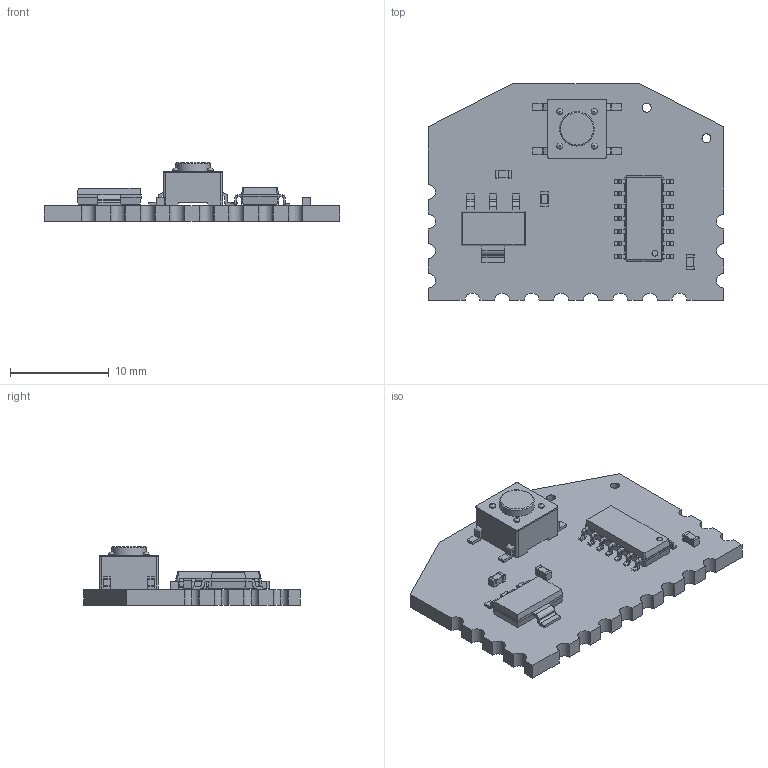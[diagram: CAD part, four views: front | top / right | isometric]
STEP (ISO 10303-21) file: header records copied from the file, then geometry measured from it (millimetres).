
FILE_DESCRIPTION(('KiCad electronic assembly'),'2;1');
FILE_NAME('Saintcon2020DaughterBoard.step','2020-08-25T20:38:28',( 'An Author'),('A Company'),'Open CASCADE STEP processor 6.9', 'KiCad to STEP converter','Unknown');
FILE_SCHEMA(('AUTOMOTIVE_DESIGN { 1 0 10303 214 1 1 1 1 }'));
Length unit declared in the file: millimetre
Products named in the file (10): Open CASCADE STEP translator 6.9 1; SOT-223; SOLID; SOIC-14_3.9x8.7mm_P1.27mm; SW_SPST_PTS645; C_0603_1608Metric; COMPOUND
Assembly tree (11 placements, depth 3):
  Open CASCADE STEP translator 6.9 1
    SOT-223
      SOLID
    SOIC-14_3.9x8.7mm_P1.27mm
      SOLID
    SW_SPST_PTS645
      SOLID
    C_0603_1608Metric  x3
      SOLID
    COMPOUND
Bounding box: 30 x 22 x 5.95 mm (x, y, z)
Volume: 1196.9 mm3; surface area: 1834.6 mm2
Topology: 7 solids, 7 shells, 549 faces, 1436 edges, 917 vertices
Faces by surface type: plane 331, cylinder 159, bspline 54, revolution 4, cone 1
Full cylindrical faces by diameter (mm): 0.6 x5, 0.9 x2, 3.5 x1
Entity records: 35406 total; most frequent: CARTESIAN_POINT 6546, DIRECTION 4685, LINE 3133, VECTOR 3133, ORIENTED_EDGE 2584, PCURVE 2584, DEFINITIONAL_REPRESENTATION 2584, EDGE_CURVE 1292
